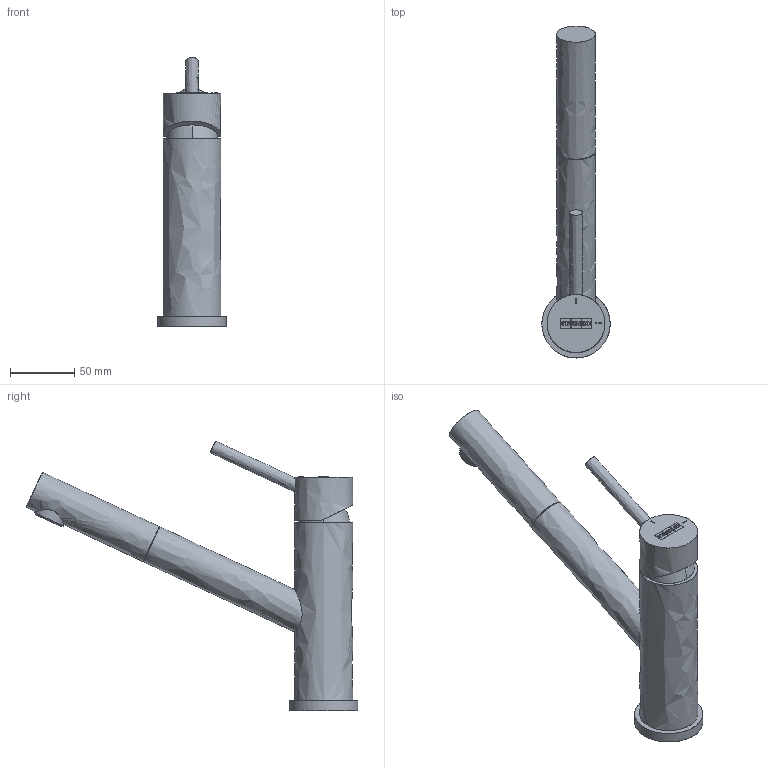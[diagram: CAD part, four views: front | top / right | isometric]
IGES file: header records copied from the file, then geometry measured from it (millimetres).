
Global section: file name: F:\_CONVERSIONE_CAD_2024_2025\03_3D kits new\08_Taps\Orbit\3D001_Taps_Orbit_Pull-Out-Nozzle-SS\3D001_Taps_Orbit_Pull-Out-Nozzle-SS.igs; native system: Rhinoceros ( Jan  9 2024 ); preprocessor: Trout Lake IGES 012 Jan  9 2024; date: 240131.132158; units: millimetre
Bounding box: 53 x 257.54 x 209.59 mm (x, y, z)
Surface area: 56456.3 mm2 (no closed solid volume)
Topology: 0 solids, 0 shells, 183 faces, 1053 edges, 1043 vertices
Faces by surface type: bspline 183
